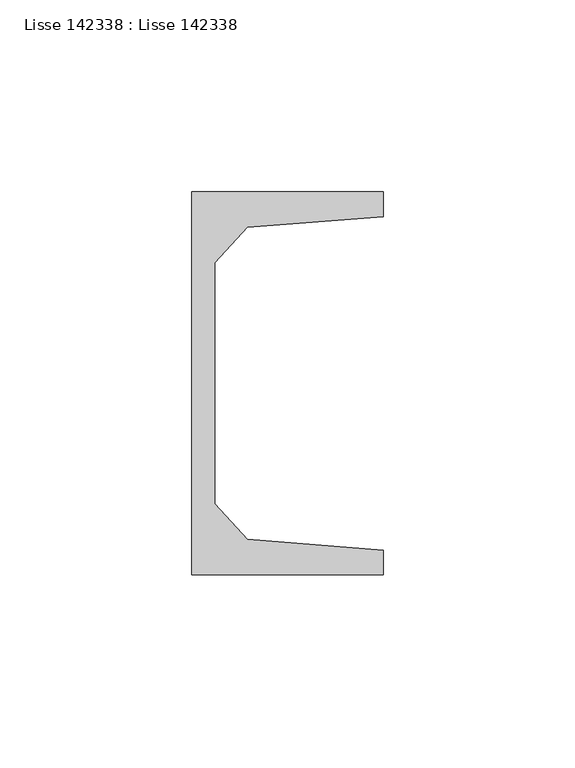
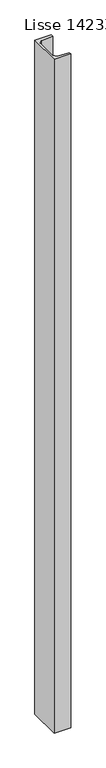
"""IFC4 building model written with IfcOpenShell, lengths in millimetres: beam geometry, Lisse 142338 : Lisse 142338."""

from ifc_helpers import new_model, si_unit, origin, origin_with_axes, place, context, project, spatial, polyline, outline, extrude, source, transform, mapped, element, save


def lisse_142338_lisse_142338_47c7ff91(model_context):
    return source(origin(), model_context, "Body", "SweptSolid", [
        extrude(outline(polyline([(14889.9999999, 88.5), (14854.4999999, 85.66), (14845.9999999, 76.48), (14845.9999999, 13.52), (14854.4999999, 4.34), (14889.9999999, 1.5), (14889.9999999, -5.0), (14839.9999999, -5.0), (14839.9999999, 95.0), (14889.9999999, 95.0), (14889.9999999, 88.5)])), origin_with_axes(), (0.0, 0.0, 1.0), 2150.0),
    ])


if __name__ == "__main__":
    model = new_model("IFC4")
    model_context = context("Model", 3, world=origin())
    ifc_project = project(units=[si_unit("LENGTHUNIT", "METRE", prefix="MILLI")], contexts=[model_context])
    site = spatial("IfcSite", under=ifc_project)
    building = spatial("IfcBuilding", under=site)
    placement = place(None, origin())
    lisse_142338_lisse_142338_shape = lisse_142338_lisse_142338_47c7ff91(model_context)
    element("IfcBeam", 1, ObjectType="Lisse 142338 : Lisse 142338", at=placement, inside=building, context=model_context, shape_type="MappedRepresentation", body=[
        mapped(lisse_142338_lisse_142338_shape, transform((0.0, 0.0, 0.0), x_axis=(1.0, 0.0, 0.0), y_axis=(0.0, 1.0, 0.0), z_axis=(0.0, 0.0, 1.0))),
    ])
    save(model, "model.ifc")
